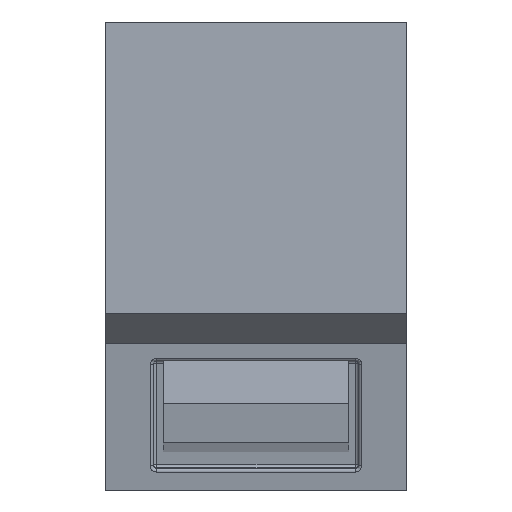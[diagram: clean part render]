
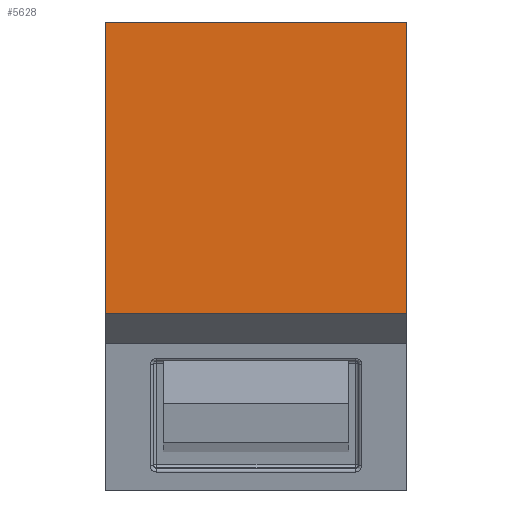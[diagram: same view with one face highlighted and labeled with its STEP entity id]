
A CAD part, front view. The second image highlights one B-rep face of the part: STEP entity #5628.
In plain terms, the highlighted planar face has unit normal (0, -1, 0).
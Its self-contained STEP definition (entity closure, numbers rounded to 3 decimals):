
#466 = CARTESIAN_POINT ( 'NONE',  ( -24.25, 0., -26.25 ) ) ;
#580 = DIRECTION ( 'NONE',  ( 0., 0., 1. ) ) ;
#647 = LINE ( 'NONE', #13541, #11344 ) ;
#1128 = PLANE ( 'NONE',  #13263 ) ;
#1145 = DIRECTION ( 'NONE',  ( -1., 0., 0. ) ) ;
#1194 = CARTESIAN_POINT ( 'NONE',  ( 24.25, 0., 0. ) ) ;
#1728 = CARTESIAN_POINT ( 'NONE',  ( -24.25, 0., 20.75 ) ) ;
#2166 = ORIENTED_EDGE ( 'NONE', *, *, #6965, .F. ) ;
#2235 = ORIENTED_EDGE ( 'NONE', *, *, #2860, .T. ) ;
#2860 = EDGE_CURVE ( 'NONE', #13182, #10832, #10953, .T. ) ;
#3208 = CARTESIAN_POINT ( 'NONE',  ( 24.25, 0., 0. ) ) ;
#3395 = EDGE_CURVE ( 'NONE', #13182, #5008, #10897, .T. ) ;
#4225 = ORIENTED_EDGE ( 'NONE', *, *, #3395, .F. ) ;
#4226 = CARTESIAN_POINT ( 'NONE',  ( 24.25, 0., 20.75 ) ) ;
#4955 = VECTOR ( 'NONE', #5955, 1000. ) ;
#5008 = VERTEX_POINT ( 'NONE', #466 ) ;
#5328 = VERTEX_POINT ( 'NONE', #1728 ) ;
#5334 = DIRECTION ( 'NONE',  ( 0., -1., 0. ) ) ;
#5628 = ADVANCED_FACE ( 'NONE', ( #9653 ), #1128, .T. ) ;
#5955 = DIRECTION ( 'NONE',  ( 0., 0., 1. ) ) ;
#6283 = DIRECTION ( 'NONE',  ( -1., 0., 0. ) ) ;
#6632 = EDGE_CURVE ( 'NONE', #10832, #5328, #12906, .T. ) ;
#6673 = VECTOR ( 'NONE', #1145, 1000. ) ;
#6965 = EDGE_CURVE ( 'NONE', #5008, #5328, #647, .T. ) ;
#9653 = FACE_OUTER_BOUND ( 'NONE', #11809, .T. ) ;
#10604 = ORIENTED_EDGE ( 'NONE', *, *, #6632, .T. ) ;
#10748 = CARTESIAN_POINT ( 'NONE',  ( 24.25, 0., -26.25 ) ) ;
#10832 = VERTEX_POINT ( 'NONE', #13855 ) ;
#10879 = DIRECTION ( 'NONE',  ( 0., 0., -1. ) ) ;
#10897 = LINE ( 'NONE', #10748, #6673 ) ;
#10953 = LINE ( 'NONE', #1194, #4955 ) ;
#11115 = VECTOR ( 'NONE', #6283, 1000. ) ;
#11344 = VECTOR ( 'NONE', #580, 1000. ) ;
#11809 = EDGE_LOOP ( 'NONE', ( #2166, #4225, #2235, #10604 ) ) ;
#12906 = LINE ( 'NONE', #4226, #11115 ) ;
#13182 = VERTEX_POINT ( 'NONE', #13188 ) ;
#13188 = CARTESIAN_POINT ( 'NONE',  ( 24.25, 0., -26.25 ) ) ;
#13263 = AXIS2_PLACEMENT_3D ( 'NONE', #3208, #5334, #10879 ) ;
#13541 = CARTESIAN_POINT ( 'NONE',  ( -24.25, 0., 0. ) ) ;
#13855 = CARTESIAN_POINT ( 'NONE',  ( 24.25, 0., 20.75 ) ) ;
